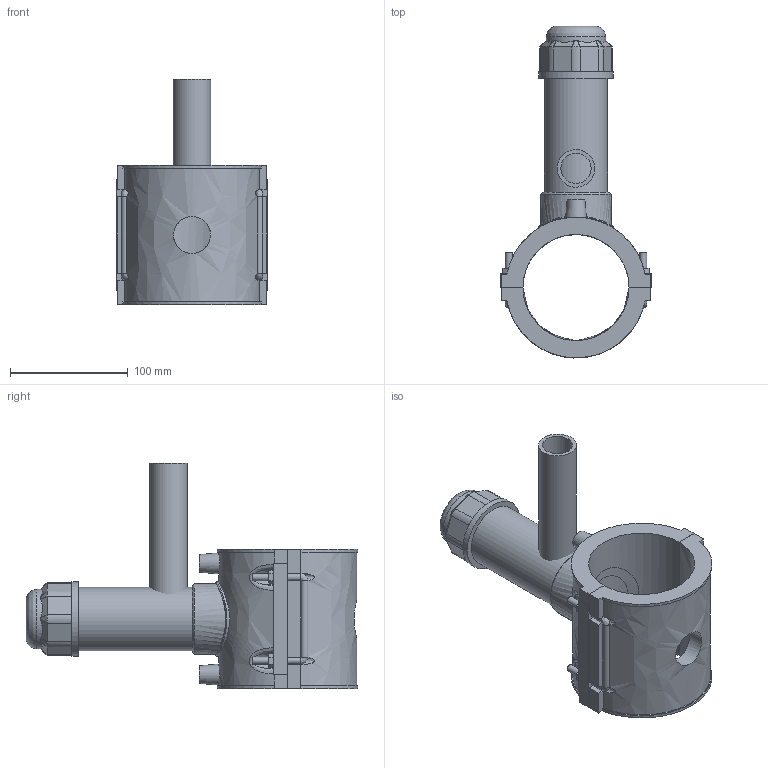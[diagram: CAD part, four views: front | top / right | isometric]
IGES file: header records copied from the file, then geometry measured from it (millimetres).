
Global section: file name: 4963P4090032; native system: Autodesk Inventor 2019; preprocessor: unknown; author: KIM; date: 20220317.112654; units: millimetre
Bounding box: 128 x 281.64 x 191 mm (x, y, z)
Volume: 821315.3 mm3; surface area: 186760.7 mm2
Topology: 3 solids, 3 shells, 218 faces, 555 edges, 360 vertices
Faces by surface type: bspline 218
